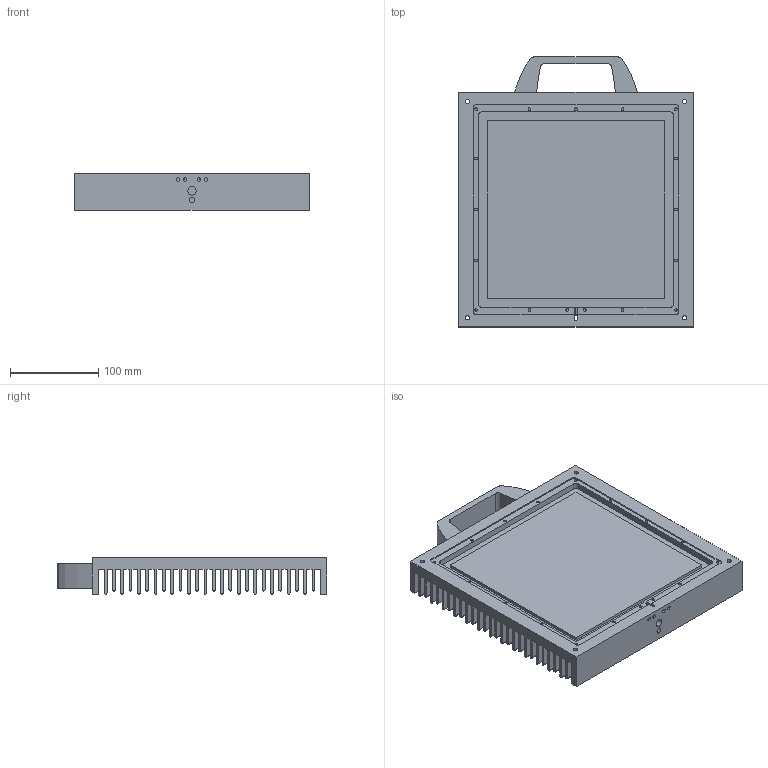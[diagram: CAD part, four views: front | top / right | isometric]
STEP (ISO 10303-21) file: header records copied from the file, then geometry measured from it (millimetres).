
FILE_DESCRIPTION (( 'STEP AP214' ), '1' );
FILE_NAME ('3DEE_STD_200X200HSC_IND_G.STEP', '2019-11-08T10:10:07', ( '' ), ( '' ), 'SwSTEP 2.0', 'SolidWorks 2012', '' );
FILE_SCHEMA (( 'AUTOMOTIVE_DESIGN' ));
Length unit declared in the file: millimetre
Products named in the file (1): 3DEE_STD_200X200HSC_IND_G
Bounding box: 266.7 x 306.7 x 41.15 mm (x, y, z)
Surface area: 578138.3 mm2 (no closed solid volume)
Topology: 0 solids, 2 shells, 236 faces, 725 edges, 488 vertices
Faces by surface type: cylinder 121, plane 113, bspline 2
Entity records: 10872 total; most frequent: CARTESIAN_POINT 1522, DIRECTION 1444, ORIENTED_EDGE 1366, EDGE_CURVE 725, AXIS2_PLACEMENT_3D 490, VERTEX_POINT 488, LINE 464, VECTOR 464
